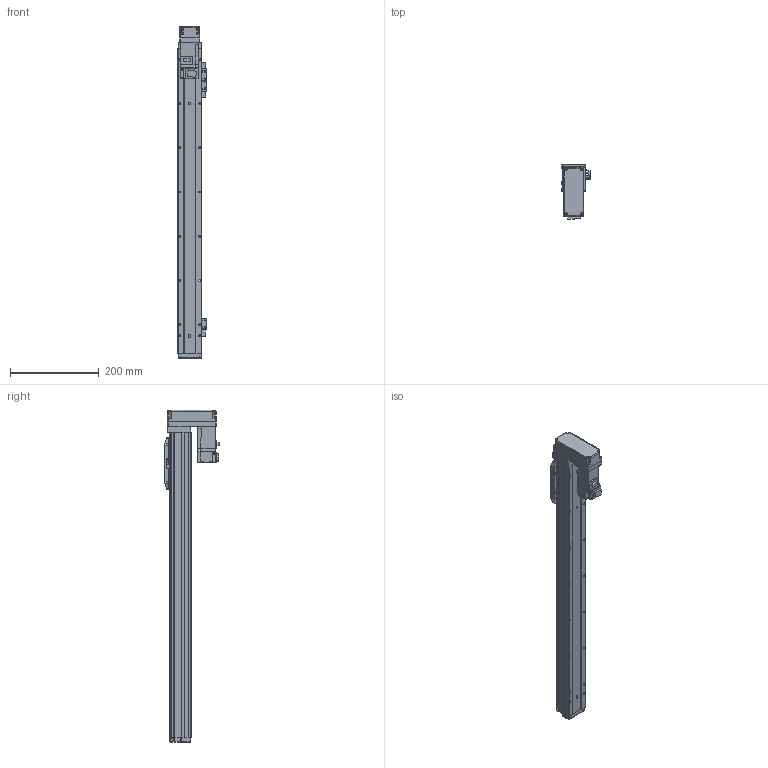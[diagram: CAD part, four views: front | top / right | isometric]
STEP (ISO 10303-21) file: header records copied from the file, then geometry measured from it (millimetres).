
FILE_DESCRIPTION (( 'STEP AP214' ), '1' );
FILE_NAME ('N_GRH5-550-BM-M10.step', '2025-03-14T10:51:01', ( '' ), ( '' ), 'SwSTEP 2.0', 'SolidWorks 2016', '' );
FILE_SCHEMA (( 'AUTOMOTIVE_DESIGN' ));
Length unit declared in the file: millimetre
Products named in the file (5): N_GRH5-BL-008^N_GRH5-550-BM-M10; N_GRH5-550-BM-M10; N_GRH5-GY-011^N_GRH5-550-BM-M10; HF-KP13_100W_Motor^N_GRH5-550-BM-M10; N_GRH5-GY-004^N_GRH5-550-BM-M10
Assembly tree (4 placements, depth 2):
  N_GRH5-550-BM-M10
    N_GRH5-GY-011^N_GRH5-550-BM-M10
    N_GRH5-GY-004^N_GRH5-550-BM-M10
    HF-KP13_100W_Motor^N_GRH5-550-BM-M10
    N_GRH5-BL-008^N_GRH5-550-BM-M10
Bounding box: 64.05 x 123.7 x 750 mm (x, y, z)
Volume: 1446575.9 mm3; surface area: 364764.2 mm2
Topology: 4 solids, 5 shells, 964 faces, 2456 edges, 1557 vertices
Faces by surface type: plane 553, cylinder 336, cone 50, bspline 15, sphere 10
Entity records: 36643 total; most frequent: CARTESIAN_POINT 5743, DIRECTION 4985, ORIENTED_EDGE 4848, EDGE_CURVE 2424, AXIS2_PLACEMENT_3D 1663, LINE 1659, VECTOR 1659, VERTEX_POINT 1555
